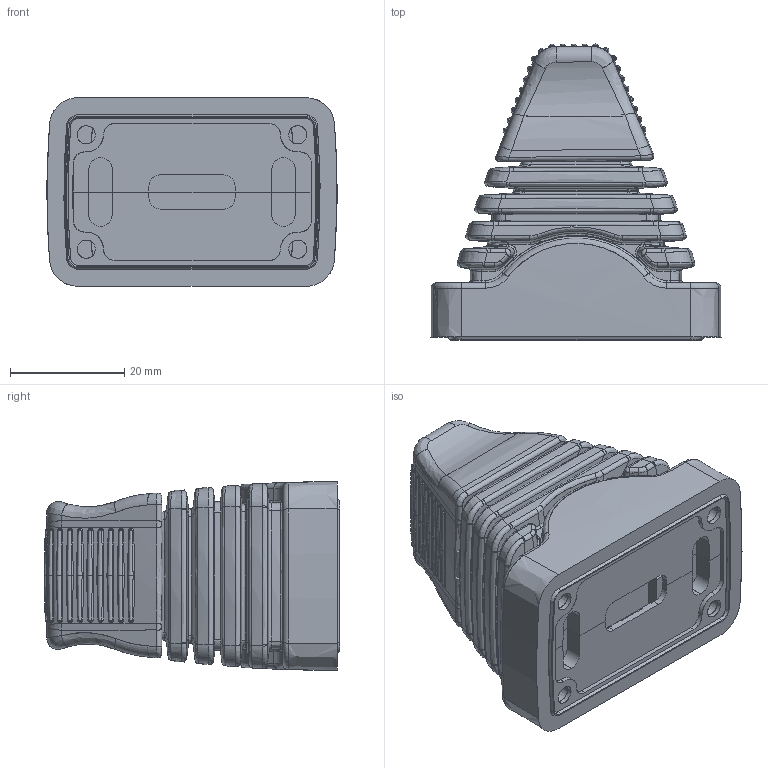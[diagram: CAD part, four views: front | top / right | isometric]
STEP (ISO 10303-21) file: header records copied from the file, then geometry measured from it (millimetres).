
FILE_DESCRIPTION(('FreeCAD Model'),'2;1');
FILE_NAME('Open CASCADE Shape Model','2022-01-19T10:00:12',(''),(''), 'Open CASCADE STEP processor 7.5','FreeCAD','Unknown');
FILE_SCHEMA(('AUTOMOTIVE_DESIGN { 1 0 10303 214 1 1 1 1 }'));
Products named in the file (1): TRY17_Generic
Bounding box: 50.81 x 51.79 x 33 mm (x, y, z)
Surface area: 31649.6 mm2 (no closed solid volume)
Topology: 0 solids, 2073 shells, 2073 faces, 10364 edges, 10353 vertices
Faces by surface type: bspline 1138, plane 477, cylinder 310, cone 119, torus 28, revolution 1
Entity records: 191536 total; most frequent: CARTESIAN_POINT 107622, ORIENTED_EDGE 10356, EDGE_CURVE 10356, VERTEX_POINT 10353, DIRECTION 6928, B_SPLINE_CURVE_WITH_KNOTS 6178, LINE 3301, VECTOR 3301
